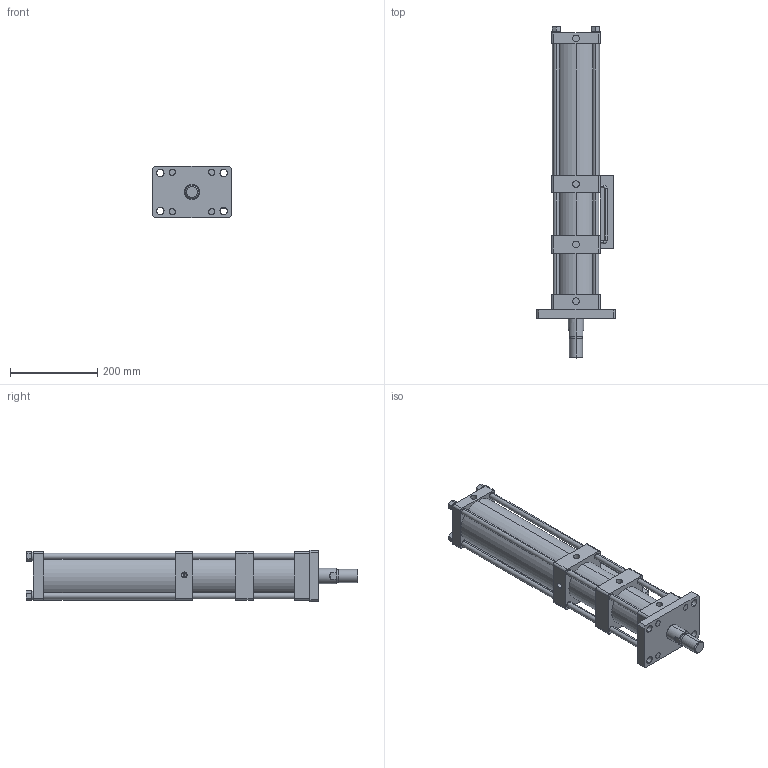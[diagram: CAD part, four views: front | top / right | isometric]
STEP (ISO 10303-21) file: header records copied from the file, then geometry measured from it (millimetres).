
FILE_DESCRIPTION (( 'STEP AP203' ), '1' );
FILE_NAME ('MPTF-80-50-20-5T.STEP', '2016-03-29T10:10:45', ( 'WIN' ), ( '' ), 'SwSTEP 2.0', 'SolidWorks 2014', '' );
FILE_SCHEMA (( 'CONFIG_CONTROL_DESIGN' ));
Length unit declared in the file: millimetre
Products named in the file (1): MPTF-80-50-20-5T
Bounding box: 180 x 760 x 118 mm (x, y, z)
Volume: 3333202.7 mm3; surface area: 659106.6 mm2
Topology: 5 solids, 5 shells, 266 faces, 632 edges, 413 vertices
Faces by surface type: cylinder 136, plane 120, cone 6, torus 4
Entity records: 7973 total; most frequent: DIRECTION 1448, CARTESIAN_POINT 1382, ORIENTED_EDGE 1260, EDGE_CURVE 630, AXIS2_PLACEMENT_3D 555, VERTEX_POINT 413, EDGE_LOOP 349, VECTOR 338
